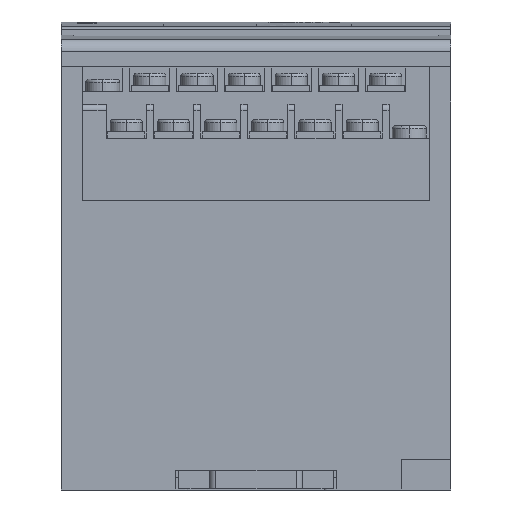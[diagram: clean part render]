
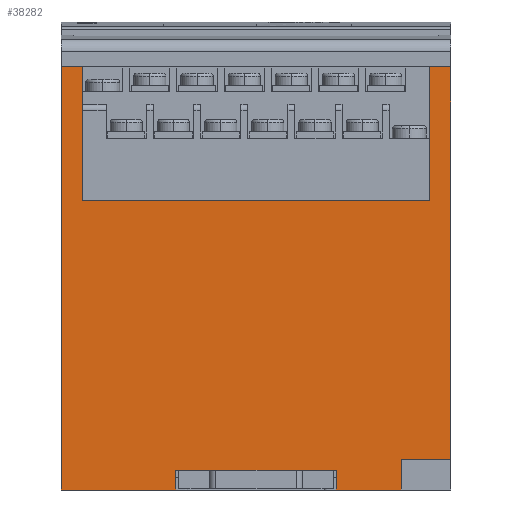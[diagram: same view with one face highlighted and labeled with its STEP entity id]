
A CAD part, front view. The second image highlights one B-rep face of the part: STEP entity #38282.
In plain terms, the highlighted planar face has unit normal (0, -1, 0).
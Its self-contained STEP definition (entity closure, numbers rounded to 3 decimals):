
#891 = CARTESIAN_POINT ( 'NONE',  ( 59.6, 0., -28.768 ) ) ;
#893 = VERTEX_POINT ( 'NONE', #43867 ) ;
#1126 = CARTESIAN_POINT ( 'NONE',  ( 55., 0., -75.6 ) ) ;
#1608 = CARTESIAN_POINT ( 'NONE',  ( 63., 0., -7.268 ) ) ;
#1679 = VERTEX_POINT ( 'NONE', #14805 ) ;
#2541 = CARTESIAN_POINT ( 'NONE',  ( 63., 0., -7.268 ) ) ;
#2646 = ORIENTED_EDGE ( 'NONE', *, *, #9044, .F. ) ;
#2991 = PLANE ( 'NONE',  #49167 ) ;
#4209 = VECTOR ( 'NONE', #18850, 1000. ) ;
#4835 = EDGE_CURVE ( 'NONE', #46586, #41870, #34994, .T. ) ;
#5342 = EDGE_LOOP ( 'NONE', ( #19782, #25097, #32459, #20183, #50817, #31197, #51320, #47938, #8268, #48234, #30206, #2646, #25041, #51371 ) ) ;
#5443 = DIRECTION ( 'NONE',  ( 0., 0., -1. ) ) ;
#5508 = LINE ( 'NONE', #38944, #4209 ) ;
#5509 = CARTESIAN_POINT ( 'NONE',  ( 18.5, 0., -75.6 ) ) ;
#6611 = CARTESIAN_POINT ( 'NONE',  ( 63., 0., -7.268 ) ) ;
#6643 = DIRECTION ( 'NONE',  ( 0., 0., -1. ) ) ;
#6858 = EDGE_CURVE ( 'NONE', #46586, #40695, #33971, .T. ) ;
#7126 = DIRECTION ( 'NONE',  ( 0., 1., 0. ) ) ;
#7455 = EDGE_CURVE ( 'NONE', #18608, #13264, #14367, .T. ) ;
#8157 = CARTESIAN_POINT ( 'NONE',  ( 59.6, 0., -28.768 ) ) ;
#8268 = ORIENTED_EDGE ( 'NONE', *, *, #49448, .T. ) ;
#8513 = EDGE_CURVE ( 'NONE', #893, #41870, #24214, .T. ) ;
#8798 = DIRECTION ( 'NONE',  ( -1., 0., 0. ) ) ;
#9044 = EDGE_CURVE ( 'NONE', #46964, #29709, #41195, .T. ) ;
#9632 = VERTEX_POINT ( 'NONE', #16964 ) ;
#9682 = CARTESIAN_POINT ( 'NONE',  ( 59.6, 0., -7.268 ) ) ;
#11707 = EDGE_CURVE ( 'NONE', #29709, #13264, #36492, .T. ) ;
#11796 = VERTEX_POINT ( 'NONE', #1126 ) ;
#11999 = DIRECTION ( 'NONE',  ( 0., 0., -1. ) ) ;
#12179 = VERTEX_POINT ( 'NONE', #34593 ) ;
#12597 = CARTESIAN_POINT ( 'NONE',  ( 55., 0., -70.6 ) ) ;
#13264 = VERTEX_POINT ( 'NONE', #48635 ) ;
#13524 = VECTOR ( 'NONE', #21510, 1000. ) ;
#14338 = CARTESIAN_POINT ( 'NONE',  ( 55., 0., -75.6 ) ) ;
#14367 = LINE ( 'NONE', #21404, #34471 ) ;
#14805 = CARTESIAN_POINT ( 'NONE',  ( 3.4, 0., -28.768 ) ) ;
#15591 = DIRECTION ( 'NONE',  ( -1., 0., 0. ) ) ;
#15980 = CARTESIAN_POINT ( 'NONE',  ( 63., 0., -7.268 ) ) ;
#16697 = FACE_OUTER_BOUND ( 'NONE', #5342, .T. ) ;
#16844 = VECTOR ( 'NONE', #5443, 1000. ) ;
#16964 = CARTESIAN_POINT ( 'NONE',  ( 44.5, 0., -75.6 ) ) ;
#17696 = EDGE_CURVE ( 'NONE', #11796, #9632, #39251, .T. ) ;
#18608 = VERTEX_POINT ( 'NONE', #18752 ) ;
#18715 = EDGE_CURVE ( 'NONE', #1679, #23515, #50624, .T. ) ;
#18752 = CARTESIAN_POINT ( 'NONE',  ( 0., 0., -7.268 ) ) ;
#18850 = DIRECTION ( 'NONE',  ( 0., 0., 1. ) ) ;
#19039 = CARTESIAN_POINT ( 'NONE',  ( 63., 0., -7.268 ) ) ;
#19782 = ORIENTED_EDGE ( 'NONE', *, *, #17696, .F. ) ;
#20183 = ORIENTED_EDGE ( 'NONE', *, *, #4835, .F. ) ;
#20373 = VECTOR ( 'NONE', #22396, 1000. ) ;
#21404 = CARTESIAN_POINT ( 'NONE',  ( 0., 0., -7.268 ) ) ;
#21510 = DIRECTION ( 'NONE',  ( 1., 0., 0. ) ) ;
#22394 = LINE ( 'NONE', #15980, #33098 ) ;
#22396 = DIRECTION ( 'NONE',  ( 0., 0., 1. ) ) ;
#22964 = LINE ( 'NONE', #36482, #32421 ) ;
#23002 = EDGE_CURVE ( 'NONE', #12179, #9632, #28778, .T. ) ;
#23515 = VERTEX_POINT ( 'NONE', #891 ) ;
#23690 = CARTESIAN_POINT ( 'NONE',  ( 59.6, 0., -28.768 ) ) ;
#24214 = LINE ( 'NONE', #12597, #13524 ) ;
#24277 = VECTOR ( 'NONE', #11999, 1000. ) ;
#24493 = VECTOR ( 'NONE', #8798, 1000. ) ;
#24821 = CARTESIAN_POINT ( 'NONE',  ( 63., 0., -75.6 ) ) ;
#25041 = ORIENTED_EDGE ( 'NONE', *, *, #34635, .F. ) ;
#25097 = ORIENTED_EDGE ( 'NONE', *, *, #43931, .T. ) ;
#28475 = CARTESIAN_POINT ( 'NONE',  ( 63., 0., -75.6 ) ) ;
#28724 = DIRECTION ( 'NONE',  ( -1., 0., 0. ) ) ;
#28778 = LINE ( 'NONE', #29573, #16844 ) ;
#28894 = EDGE_CURVE ( 'NONE', #1679, #44551, #5508, .T. ) ;
#28918 = VECTOR ( 'NONE', #47935, 1000. ) ;
#29108 = VECTOR ( 'NONE', #36335, 1000. ) ;
#29573 = CARTESIAN_POINT ( 'NONE',  ( 44.5, 0., -33.265 ) ) ;
#29709 = VERTEX_POINT ( 'NONE', #5509 ) ;
#30206 = ORIENTED_EDGE ( 'NONE', *, *, #11707, .F. ) ;
#31058 = LINE ( 'NONE', #14338, #20373 ) ;
#31197 = ORIENTED_EDGE ( 'NONE', *, *, #47973, .F. ) ;
#31316 = CARTESIAN_POINT ( 'NONE',  ( 3.4, 0., -7.268 ) ) ;
#32071 = DIRECTION ( 'NONE',  ( 0., 0., -1. ) ) ;
#32421 = VECTOR ( 'NONE', #28724, 1000. ) ;
#32459 = ORIENTED_EDGE ( 'NONE', *, *, #8513, .T. ) ;
#32697 = CARTESIAN_POINT ( 'NONE',  ( 18.5, 0., -33.265 ) ) ;
#33098 = VECTOR ( 'NONE', #40067, 1000. ) ;
#33971 = LINE ( 'NONE', #2541, #42150 ) ;
#34471 = VECTOR ( 'NONE', #6643, 1000. ) ;
#34593 = CARTESIAN_POINT ( 'NONE',  ( 44.5, 0., -72.4 ) ) ;
#34635 = EDGE_CURVE ( 'NONE', #12179, #46964, #22964, .T. ) ;
#34994 = LINE ( 'NONE', #19039, #24277 ) ;
#35274 = DIRECTION ( 'NONE',  ( 0., 0., 1. ) ) ;
#36335 = DIRECTION ( 'NONE',  ( 1., 0., 0. ) ) ;
#36482 = CARTESIAN_POINT ( 'NONE',  ( 18.5, 0., -72.4 ) ) ;
#36492 = LINE ( 'NONE', #24821, #24493 ) ;
#37067 = CARTESIAN_POINT ( 'NONE',  ( 18.5, 0., -72.4 ) ) ;
#38282 = ADVANCED_FACE ( 'NONE', ( #16697 ), #2991, .F. ) ;
#38386 = LINE ( 'NONE', #23690, #28918 ) ;
#38944 = CARTESIAN_POINT ( 'NONE',  ( 3.4, 0., -28.768 ) ) ;
#39251 = LINE ( 'NONE', #28475, #50001 ) ;
#40067 = DIRECTION ( 'NONE',  ( -1., 0., 0. ) ) ;
#40695 = VERTEX_POINT ( 'NONE', #9682 ) ;
#41016 = CARTESIAN_POINT ( 'NONE',  ( 63., 0., -70.6 ) ) ;
#41195 = LINE ( 'NONE', #32697, #50769 ) ;
#41870 = VERTEX_POINT ( 'NONE', #41016 ) ;
#42150 = VECTOR ( 'NONE', #15591, 1000. ) ;
#43867 = CARTESIAN_POINT ( 'NONE',  ( 55., 0., -70.6 ) ) ;
#43931 = EDGE_CURVE ( 'NONE', #11796, #893, #31058, .T. ) ;
#44551 = VERTEX_POINT ( 'NONE', #31316 ) ;
#44851 = DIRECTION ( 'NONE',  ( -1., 0., 0. ) ) ;
#46586 = VERTEX_POINT ( 'NONE', #1608 ) ;
#46964 = VERTEX_POINT ( 'NONE', #37067 ) ;
#47935 = DIRECTION ( 'NONE',  ( 0., 0., 1. ) ) ;
#47938 = ORIENTED_EDGE ( 'NONE', *, *, #28894, .T. ) ;
#47973 = EDGE_CURVE ( 'NONE', #23515, #40695, #38386, .T. ) ;
#48234 = ORIENTED_EDGE ( 'NONE', *, *, #7455, .T. ) ;
#48635 = CARTESIAN_POINT ( 'NONE',  ( 0., 0., -75.6 ) ) ;
#49167 = AXIS2_PLACEMENT_3D ( 'NONE', #6611, #7126, #35274 ) ;
#49448 = EDGE_CURVE ( 'NONE', #44551, #18608, #22394, .T. ) ;
#50001 = VECTOR ( 'NONE', #44851, 1000. ) ;
#50624 = LINE ( 'NONE', #8157, #29108 ) ;
#50769 = VECTOR ( 'NONE', #32071, 1000. ) ;
#50817 = ORIENTED_EDGE ( 'NONE', *, *, #6858, .T. ) ;
#51320 = ORIENTED_EDGE ( 'NONE', *, *, #18715, .F. ) ;
#51371 = ORIENTED_EDGE ( 'NONE', *, *, #23002, .T. ) ;
